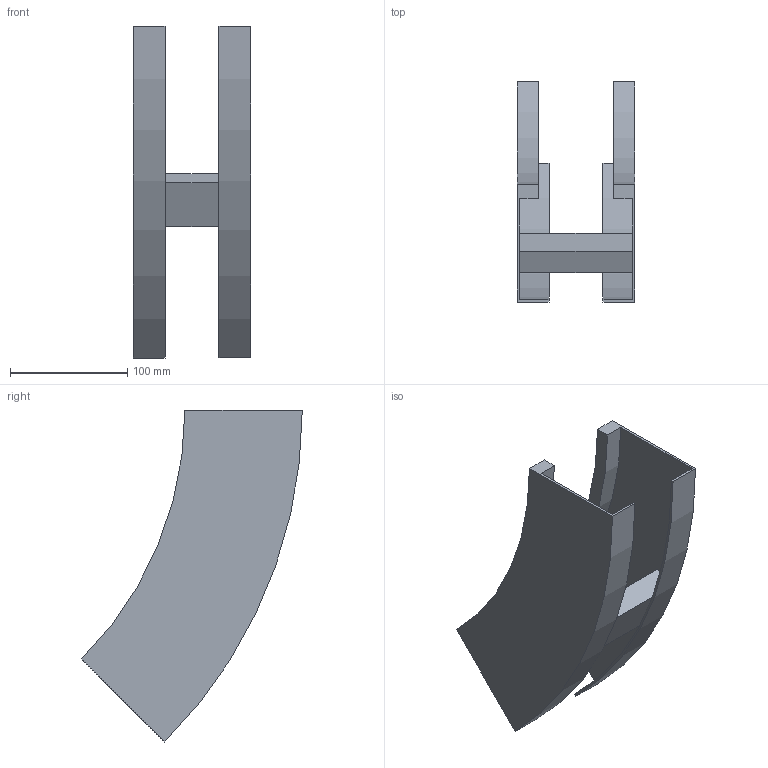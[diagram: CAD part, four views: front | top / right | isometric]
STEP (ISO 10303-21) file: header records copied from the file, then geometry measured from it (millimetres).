
FILE_DESCRIPTION (( 'STEP AP214' ), '1' );
FILE_NAME ('B2X31B3D100XX.step', '2025-03-20T10:04:54', ( '' ), ( '' ), 'SwSTEP 2.0', 'SolidWorks 2023', '' );
FILE_SCHEMA (( 'AUTOMOTIVE_DESIGN' ));
Length unit declared in the file: millimetre
Products named in the file (3): TRAVERSINO_100; B2X31B3D100XX; B2_LONGH.SALITA_45°_H100_R300
Assembly tree (3 placements, depth 2):
  B2X31B3D100XX
    B2_LONGH.SALITA_45°_H100_R300  x2
    TRAVERSINO_100
Bounding box: 100 x 187.87 x 282.84 mm (x, y, z)
Volume: 311340.6 mm3; surface area: 173877.5 mm2
Topology: 3 solids, 3 shells, 26 faces, 60 edges, 40 vertices
Faces by surface type: plane 18, cylinder 8
Entity records: 544 total; most frequent: DIRECTION 88, CARTESIAN_POINT 82, ORIENTED_EDGE 72, EDGE_CURVE 36, AXIS2_PLACEMENT_3D 30, VECTOR 28, LINE 28, VERTEX_POINT 24
